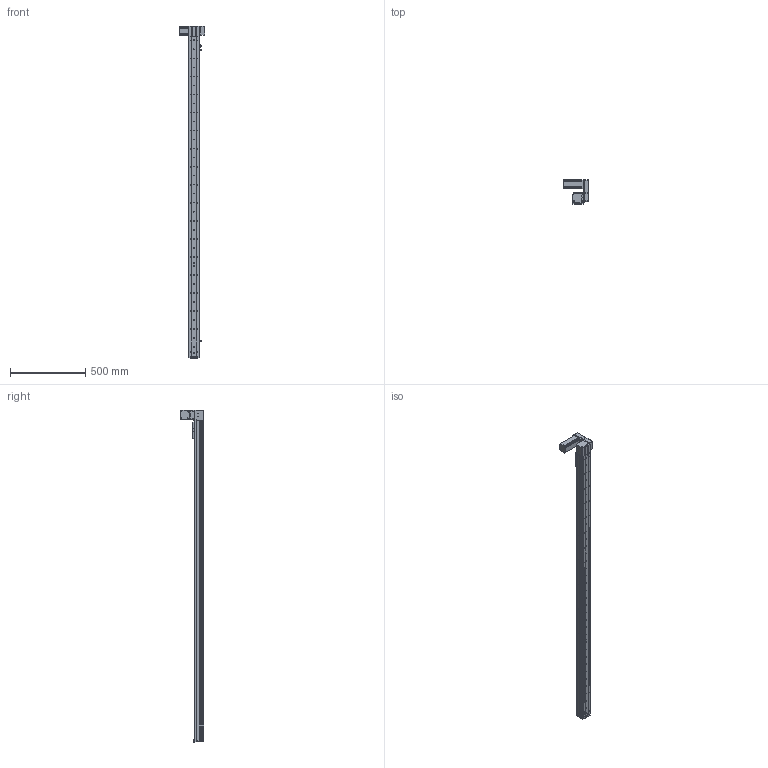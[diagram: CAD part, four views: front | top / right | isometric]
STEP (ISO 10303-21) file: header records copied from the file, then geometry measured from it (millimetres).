
FILE_DESCRIPTION (( 'STEP AP214' ), '1' );
FILE_NAME ('KSD68BS-S1950-MLU-CR.STEP', '2019-11-07T08:39:15', ( '微软用户' ), ( '微软中国' ), 'SwSTEP 2.0', 'SolidWorks 2014', '' );
FILE_SCHEMA (( 'AUTOMOTIVE_DESIGN' ));
Length unit declared in the file: millimetre
Products named in the file (14): 68遵裔啣揤啣1; 68宽单导轨全封闭丝杆传动安装板1防护罩; KSD68BS 1950行程侧板全封闭; 68宽单导轨全封闭同步带端板; 68单导轨全封闭同步带电机座左; 68单导轨全封闭同步带安装板; 悵誘欶奻狟殏; KSD68BS 1950行程盖板全封闭; 68宽马达安装板连板上折同步带; 感应片68宽全封闭; U倰嫖萇EEㄜSX672; 台达ECMA－C20604AS伺服电机（400W); KSD68BS 1950行程底板全封闭; KSD68BS-S1950-MLU-CR
Assembly tree (17 placements, depth 2):
  KSD68BS-S1950-MLU-CR
    KSD68BS 1950行程底板全封闭
    台达ECMA－C20604AS伺服电机（400W)
    U倰嫖萇EEㄜSX672  x3
    感应片68宽全封闭
    68宽马达安装板连板上折同步带
    悵誘欶奻狟殏
    68单导轨全封闭同步带安装板
    68单导轨全封闭同步带电机座左
    68宽单导轨全封闭同步带端板
    KSD68BS 1950行程侧板全封闭  x2
    68宽单导轨全封闭丝杆传动安装板1防护罩
    68遵裔啣揤啣1  x2
    KSD68BS 1950行程盖板全封闭
Bounding box: 167.2 x 159.5 x 2208.1 mm (x, y, z)
Volume: 3816605 mm3; surface area: 1575509.8 mm2
Topology: 18 solids, 18 shells, 1653 faces, 4787 edges, 3046 vertices
Faces by surface type: cylinder 824, plane 629, cone 200
Entity records: 54671 total; most frequent: CARTESIAN_POINT 9589, DIRECTION 8110, ORIENTED_EDGE 7762, EDGE_CURVE 3881, AXIS2_PLACEMENT_3D 2971, VERTEX_POINT 2544, LINE 2168, VECTOR 2168
